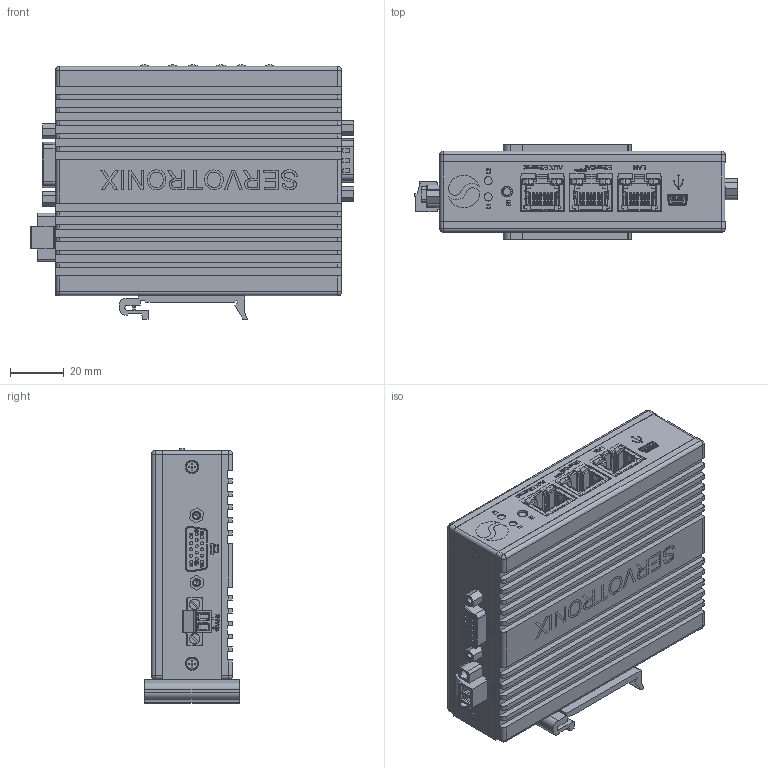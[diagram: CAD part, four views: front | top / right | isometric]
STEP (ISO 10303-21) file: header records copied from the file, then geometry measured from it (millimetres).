
FILE_DESCRIPTION (( 'STEP AP214' ), '1' );
FILE_NAME ('softMC 703_DIN mount_v01.STEP', '2018-02-15T06:24:35', ( '' ), ( '' ), 'SwSTEP 2.0', 'SolidWorks 2010', '' );
FILE_SCHEMA (( 'AUTOMOTIVE_DESIGN' ));
Length unit declared in the file: millimetre
Products named in the file (18): led orange; REAR PANEL; BOTTOM COVER; 15 pin HD_F_D?faut; FRONT PANEL; Conn. Molex 548190519; SPACER 4-40x6 ALUTRONIC  DI 661_5_1; TOP COVER; Plug Phoenix 1827703; SD9P_male; button; Conn. Phoenix 1827868; led green; RJ 45 TE 6116075; SCR-M2.5x5-90 grad; DIN-MOUNT_NET; screw M4x8; softMC 703_DIN mount_v01
Assembly tree (34 placements, depth 2):
  softMC 703_DIN mount_v01
    SCR-M2.5x5-90 grad  x12
    TOP COVER
    SPACER 4-40x6 ALUTRONIC  DI 661_5_1  x4
    led green
    BOTTOM COVER
    RJ 45 TE 6116075  x3
    Plug Phoenix 1827703
    SD9P_male
    15 pin HD_F_D?faut
    DIN-MOUNT_NET
    FRONT PANEL
    screw M4x8  x2
    led orange
    button
    Conn. Molex 548190519
    REAR PANEL
    Conn. Phoenix 1827868
Bounding box: 120.15 x 35 x 94.47 mm (x, y, z)
Volume: 99126.8 mm3; surface area: 94845.2 mm2
Topology: 34 solids, 34 shells, 5849 faces, 16394 edges, 10770 vertices
Faces by surface type: plane 4160, cylinder 889, bspline 614, cone 126, torus 43, sphere 17
Entity records: 223159 total; most frequent: CARTESIAN_POINT 84500, ORIENTED_EDGE 22790, DIRECTION 18341, EDGE_CURVE 11395, LINE 8507, VECTOR 8507, VERTEX_POINT 7505, AXIS2_PLACEMENT_3D 4917
